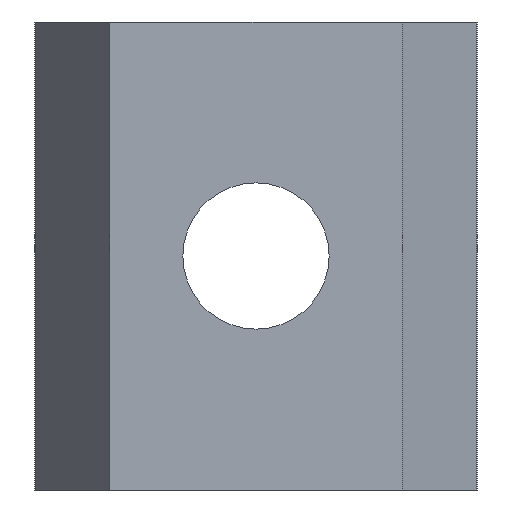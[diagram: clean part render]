
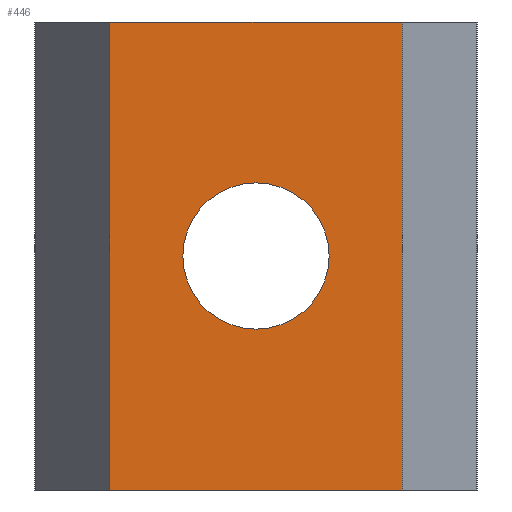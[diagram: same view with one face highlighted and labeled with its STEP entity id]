
A CAD part, front view. The second image highlights one B-rep face of the part: STEP entity #446.
In plain terms, the highlighted planar face has unit normal (0, -1, 0).
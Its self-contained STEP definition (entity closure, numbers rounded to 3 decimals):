
#6 = DIRECTION ( 'NONE',  ( 0., 0., -1. ) ) ;
#7 = DIRECTION ( 'NONE',  ( 1., 0., 0. ) ) ;
#40 = AXIS2_PLACEMENT_3D ( 'NONE', #447, #435, #432 ) ;
#47 = CARTESIAN_POINT ( 'NONE',  ( -5., 0., 8. ) ) ;
#48 = AXIS2_PLACEMENT_3D ( 'NONE', #248, #192, #267 ) ;
#56 = CARTESIAN_POINT ( 'NONE',  ( -5., 0., 8. ) ) ;
#62 = EDGE_CURVE ( 'NONE', #438, #542, #286, .T. ) ;
#80 = EDGE_CURVE ( 'NONE', #181, #482, #272, .T. ) ;
#83 = EDGE_CURVE ( 'NONE', #542, #438, #271, .T. ) ;
#92 = EDGE_CURVE ( 'NONE', #482, #481, #266, .T. ) ;
#94 = EDGE_CURVE ( 'NONE', #430, #481, #264, .T. ) ;
#102 = EDGE_CURVE ( 'NONE', #181, #430, #269, .T. ) ;
#160 = FACE_OUTER_BOUND ( 'NONE', #325, .T. ) ;
#169 = FACE_BOUND ( 'NONE', #328, .T. ) ;
#181 = VERTEX_POINT ( 'NONE', #56 ) ;
#192 = DIRECTION ( 'NONE',  ( 0., 1., 0. ) ) ;
#248 = CARTESIAN_POINT ( 'NONE',  ( 0., 0., 0. ) ) ;
#257 = VECTOR ( 'NONE', #394, 1000. ) ;
#259 = VECTOR ( 'NONE', #395, 1000. ) ;
#263 = VECTOR ( 'NONE', #7, 1000. ) ;
#264 = LINE ( 'NONE', #414, #259 ) ;
#266 = LINE ( 'NONE', #491, #263 ) ;
#267 = DIRECTION ( 'NONE',  ( 0., 0., 1. ) ) ;
#268 = VECTOR ( 'NONE', #6, 1000. ) ;
#269 = LINE ( 'NONE', #459, #257 ) ;
#271 = CIRCLE ( 'NONE', #40, 2.5 ) ;
#272 = LINE ( 'NONE', #47, #268 ) ;
#286 = CIRCLE ( 'NONE', #48, 2.5 ) ;
#325 = EDGE_LOOP ( 'NONE', ( #345, #351, #616, #336 ) ) ;
#328 = EDGE_LOOP ( 'NONE', ( #537, #440 ) ) ;
#336 = ORIENTED_EDGE ( 'NONE', *, *, #80, .T. ) ;
#345 = ORIENTED_EDGE ( 'NONE', *, *, #92, .T. ) ;
#351 = ORIENTED_EDGE ( 'NONE', *, *, #94, .F. ) ;
#394 = DIRECTION ( 'NONE',  ( 1., 0., 0. ) ) ;
#395 = DIRECTION ( 'NONE',  ( 0., 0., -1. ) ) ;
#414 = CARTESIAN_POINT ( 'NONE',  ( 5., 0., 8. ) ) ;
#430 = VERTEX_POINT ( 'NONE', #556 ) ;
#432 = DIRECTION ( 'NONE',  ( 0., 0., 1. ) ) ;
#435 = DIRECTION ( 'NONE',  ( 0., 1., 0. ) ) ;
#437 = CARTESIAN_POINT ( 'NONE',  ( 0., 0., 2.5 ) ) ;
#438 = VERTEX_POINT ( 'NONE', #554 ) ;
#440 = ORIENTED_EDGE ( 'NONE', *, *, #62, .T. ) ;
#446 = ADVANCED_FACE ( 'NONE', ( #169, #160 ), #507, .F. ) ;
#447 = CARTESIAN_POINT ( 'NONE',  ( 0., 0., 0. ) ) ;
#459 = CARTESIAN_POINT ( 'NONE',  ( -5., 0., 8. ) ) ;
#470 = CARTESIAN_POINT ( 'NONE',  ( -5., 0., -8. ) ) ;
#481 = VERTEX_POINT ( 'NONE', #487 ) ;
#482 = VERTEX_POINT ( 'NONE', #470 ) ;
#487 = CARTESIAN_POINT ( 'NONE',  ( 5., 0., -8. ) ) ;
#491 = CARTESIAN_POINT ( 'NONE',  ( -5., 0., -8. ) ) ;
#504 = DIRECTION ( 'NONE',  ( 0., 0., 1. ) ) ;
#505 = DIRECTION ( 'NONE',  ( 0., 1., 0. ) ) ;
#507 = PLANE ( 'NONE',  #525 ) ;
#512 = CARTESIAN_POINT ( 'NONE',  ( -5., 0., 8. ) ) ;
#525 = AXIS2_PLACEMENT_3D ( 'NONE', #512, #505, #504 ) ;
#537 = ORIENTED_EDGE ( 'NONE', *, *, #83, .T. ) ;
#542 = VERTEX_POINT ( 'NONE', #437 ) ;
#554 = CARTESIAN_POINT ( 'NONE',  ( 0., 0., -2.5 ) ) ;
#556 = CARTESIAN_POINT ( 'NONE',  ( 5., 0., 8. ) ) ;
#616 = ORIENTED_EDGE ( 'NONE', *, *, #102, .F. ) ;
